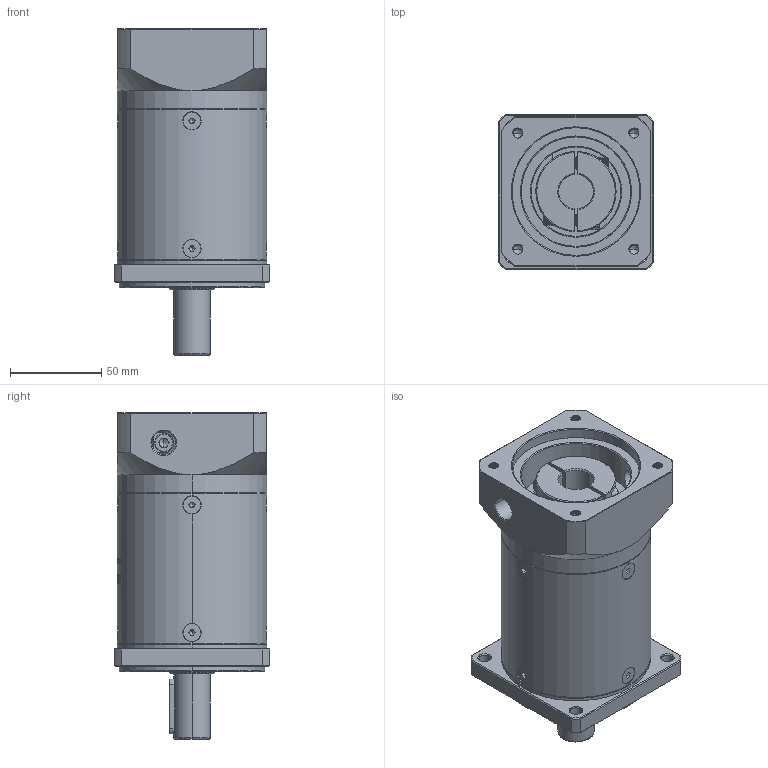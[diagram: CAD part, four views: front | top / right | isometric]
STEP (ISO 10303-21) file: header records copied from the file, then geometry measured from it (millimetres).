
FILE_DESCRIPTION (( 'STEP AP214' ), '1' );
FILE_NAME ('ZF80-D20-L3-19-70-90-M6.step', '2022-05-08T09:16:17', ( '' ), ( 'Microsoft' ), 'SwSTEP 2.0', 'SolidWorks 2016', '' );
FILE_SCHEMA (( 'AUTOMOTIVE_DESIGN' ));
Length unit declared in the file: millimetre
Products named in the file (1): ZF80-D20-L3-19-70-90-M6
Bounding box: 85 x 85 x 179 mm (x, y, z)
Volume: 737471.4 mm3; surface area: 96532.1 mm2
Topology: 13 solids, 13 shells, 1973 faces, 5107 edges, 3227 vertices
Faces by surface type: plane 891, cylinder 408, cone 337, bspline 320, torus 17
Entity records: 107580 total; most frequent: CARTESIAN_POINT 41340, ORIENTED_EDGE 10154, DIRECTION 7997, EDGE_CURVE 5077, VERTEX_POINT 3227, LINE 2753, VECTOR 2753, AXIS2_PLACEMENT_3D 2622
